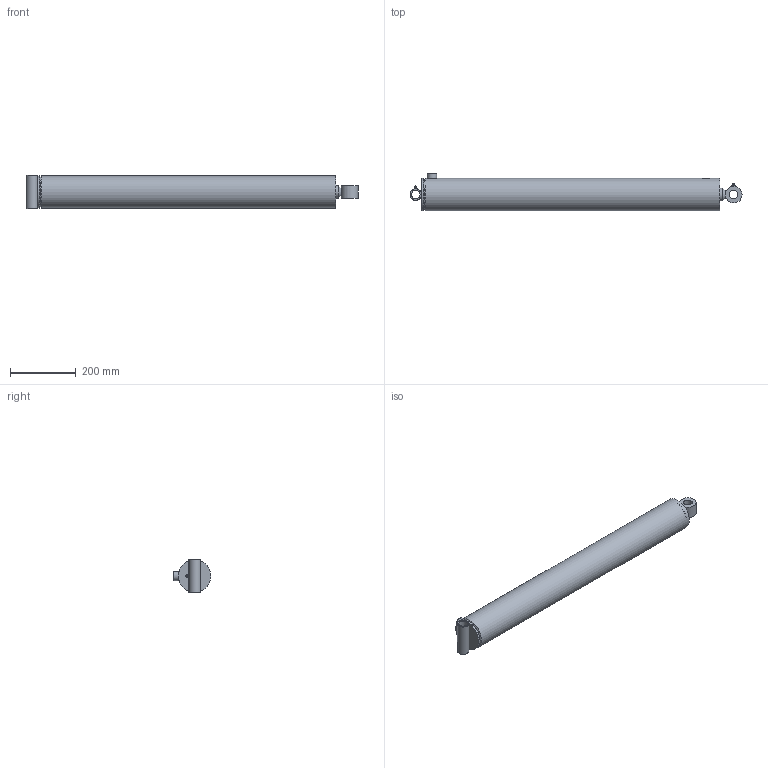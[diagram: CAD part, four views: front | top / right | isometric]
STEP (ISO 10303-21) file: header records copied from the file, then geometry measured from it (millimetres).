
FILE_DESCRIPTION((''),'2;1');
FILE_NAME('\\SRVR-ENG\EngSales\PMC-5530.stp','2011-01-26T13:32:43',('KneiflD'),(''),'Autodesk Inventor 2011','Autodesk Inventor 2011','');
FILE_SCHEMA(('AUTOMOTIVE_DESIGN { 1 0 10303 214 1 1 1 1 }'));
Length unit declared in the file: inch
Products named in the file (23): PMC-5530; 061700030; 051700045; 161700005V; 200014404V; 210400024V; 020800262; 010800793; 210400528V; 071700016V; 081700326V; 220000210V; 240004007V; 240063338V; 240000338V; 240000022V; 240061338V; 240020059V; 230001350V; 200018003V; 270010002V; 270010020V; 250001222V
Assembly tree (25 placements, depth 3):
  PMC-5530
    061700030
      051700045
      161700005V
      200014404V
      210400024V
    020800262
      010800793
      210400528V
    071700016V
    081700326V
    220000210V
    240004007V
    240063338V  x2
    240000338V  x2
    240000022V
    240061338V
    240020059V
    230001350V
    200018003V  x2
    270010002V
    270010020V
    250001222V
Bounding box: 1008.05 x 114.3 x 101.6 mm (x, y, z)
Volume: 2942453.7 mm3; surface area: 808363.5 mm2
Topology: 23 solids, 23 shells, 257 faces, 526 edges, 319 vertices
Faces by surface type: plane 114, cylinder 66, cone 38, torus 33, bspline 4, sphere 2
Full cylindrical faces by diameter (mm): 1.143 x2, 1.524 x2, 3.175 x2, 5.486 x1, 6.074 x1, 8.839 x1, 9.08 x1, 12.7 x1, 17.463 x1, 17.475 x1, 23.813 x1, 23.825 x1, 25.349 x1, 25.476 x1, 25.908 x1, 26.162 x1, 27.965 x1, 28.575 x1, 34.925 x1, 38.1 x2, 38.176 x2, 39.052 x1, 41.91 x1, 46.025 x2, 46.673 x1, 47.625 x1, 50.8 x1, 53.975 x1, 69.342 x1, 79.375 x2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
Entity records: 6738 total; most frequent: CARTESIAN_POINT 1592, DIRECTION 1040, ORIENTED_EDGE 680, AXIS2_PLACEMENT_3D 473, EDGE_LOOP 406, EDGE_CURVE 340, VERTEX_POINT 274, FACE_OUTER_BOUND 234
